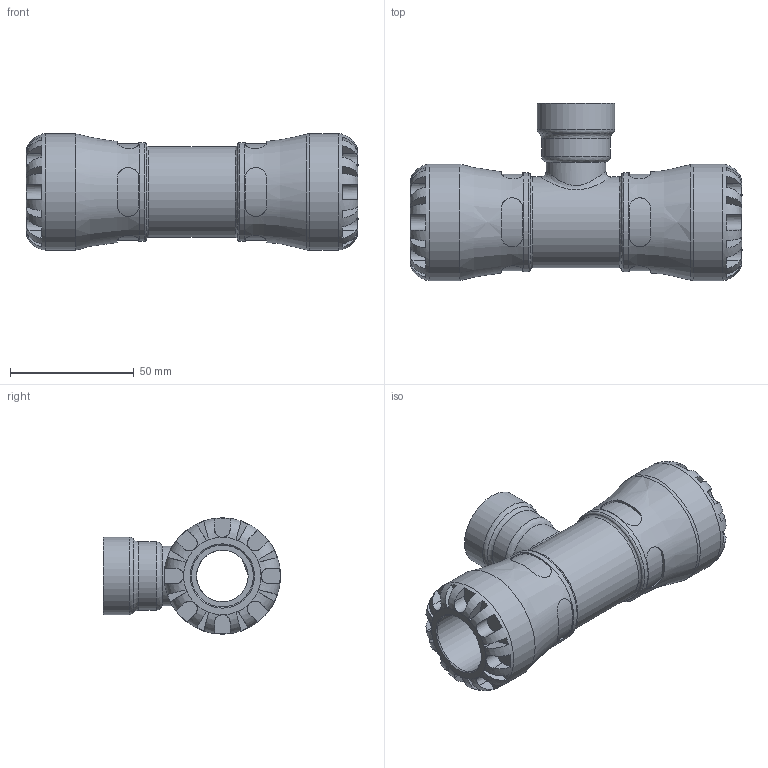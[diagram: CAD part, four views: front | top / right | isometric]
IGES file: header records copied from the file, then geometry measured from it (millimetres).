
Global section: file name: 101400025007_191400025007.ipt; native system: Autodesk Inventor 2015; preprocessor: unknown; author: KIM; date: 20170130.090638; units: millimetre
Bounding box: 134 x 71.5 x 47 mm (x, y, z)
Volume: 123517.7 mm3; surface area: 37603.3 mm2
Topology: 1 solids, 1 shells, 202 faces, 527 edges, 337 vertices
Faces by surface type: plane 118, revolution 51, cylinder 32, bspline 1
Full cylindrical faces by diameter (mm): 24.117 x1, 27.735 x1, 31.352 x1, 36.66 x1, 39.95 x2, 47 x2
